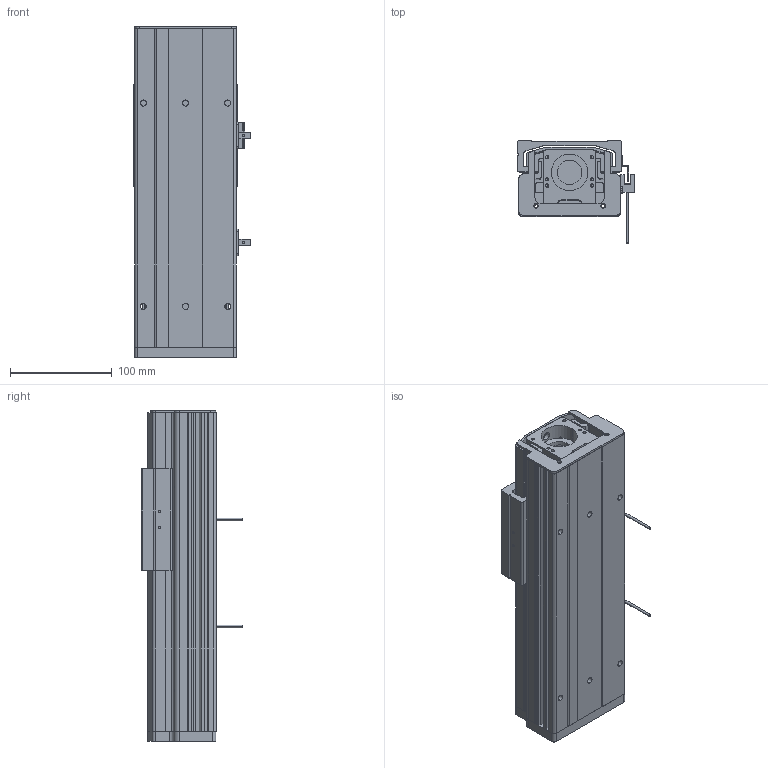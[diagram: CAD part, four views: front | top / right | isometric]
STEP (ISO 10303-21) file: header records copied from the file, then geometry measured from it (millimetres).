
FILE_DESCRIPTION (( 'STEP AP203' ), '1' );
FILE_NAME ('CTHM10-S100-O-BC.STEP', '2019-12-18T01:11:40', ( '微软用户' ), ( '微软中国' ), 'SwSTEP 2.0', 'SolidWorks 2017', '' );
FILE_SCHEMA (( 'CONFIG_CONTROL_DESIGN' ));
Length unit declared in the file: millimetre
Products named in the file (11): CTHM10固定侧自制轴承座; CTHM10裔啣(100); CTHM10傷裔(祥結裔啣); CTHM10綴傷裔; 覜茼え; 遣喳蝶15x12x8; CTHM10菁釱(200); EE-SX672-BR; CTHM10痄雄釱(党蜊); CTHM10-S100-O-BC; CTHM10盓傅耜
Assembly tree (14 placements, depth 2):
  CTHM10-S100-O-BC
    CTHM10菁釱(200)
    CTHM10痄雄釱(党蜊)
    CTHM10盓傅耜
    CTHM10固定侧自制轴承座
    CTHM10裔啣(100)
    CTHM10傷裔(祥結裔啣)
    CTHM10綴傷裔
    覜茼え
    遣喳蝶15x12x8  x4
    EE-SX672-BR  x2
Bounding box: 114.7 x 100.2 x 325 mm (x, y, z)
Volume: 1103798 mm3; surface area: 378094.7 mm2
Topology: 14 solids, 14 shells, 920 faces, 2602 edges, 1696 vertices
Faces by surface type: cylinder 485, plane 391, cone 44
Entity records: 31021 total; most frequent: CARTESIAN_POINT 7481, DIRECTION 4700, ORIENTED_EDGE 4676, EDGE_CURVE 2338, AXIS2_PLACEMENT_3D 1709, VERTEX_POINT 1544, VECTOR 1282, LINE 1282
